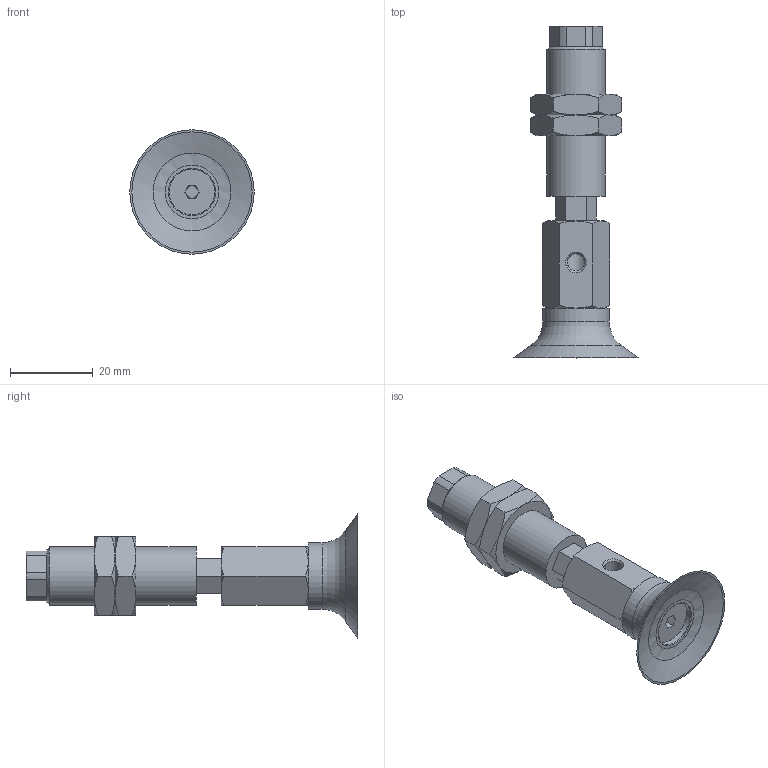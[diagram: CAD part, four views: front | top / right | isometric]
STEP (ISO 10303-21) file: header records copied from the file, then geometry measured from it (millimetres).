
FILE_DESCRIPTION(('STEP AP203'),'1');
FILE_NAME('.stp','2025-04-10T07:41:24',(' '),(' '),'Spatial InterOp 3D',' ',' ');
FILE_SCHEMA(('CONFIG_CONTROL_DESIGN'));
Length unit declared in the file: millimetre
Products named in the file (7): BNABPFYH-30-6-※; TN-PF-30-M6-NAPF; CONNECTOR-H-30-6; Nut-30-6-h; NAPFTH-30-6-FBODY; NAPFTH-30-6-MBODY; BPFG-30-※
Assembly tree (7 placements, depth 2):
  BNABPFYH-30-6-※
    TN-PF-30-M6-NAPF
    CONNECTOR-H-30-6
    Nut-30-6-h  x2
    NAPFTH-30-6-FBODY
    NAPFTH-30-6-MBODY
    BPFG-30-※
Bounding box: 30 x 80 x 30 mm (x, y, z)
Volume: 13970 mm3; surface area: 10965.9 mm2
Topology: 7 solids, 7 shells, 155 faces, 334 edges, 203 vertices
Faces by surface type: plane 78, cone 51, cylinder 20, torus 5, bspline 1
Full cylindrical faces by diameter (mm): 3 x2, 4.134 x2, 4.917 x1, 5 x1, 6 x2, 11 x2, 12.917 x2, 14 x1, 16 x1
Entity records: 4063 total; most frequent: CARTESIAN_POINT 986, DIRECTION 566, ORIENTED_EDGE 506, EDGE_CURVE 253, AXIS2_PLACEMENT_3D 225, EDGE_LOOP 184, VERTEX_POINT 173, FACE_OUTER_BOUND 151
